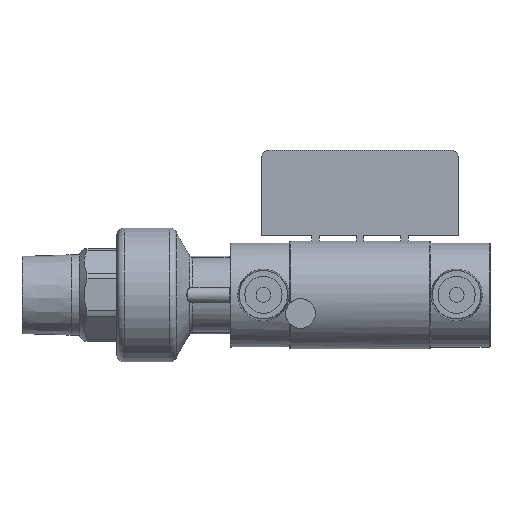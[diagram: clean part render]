
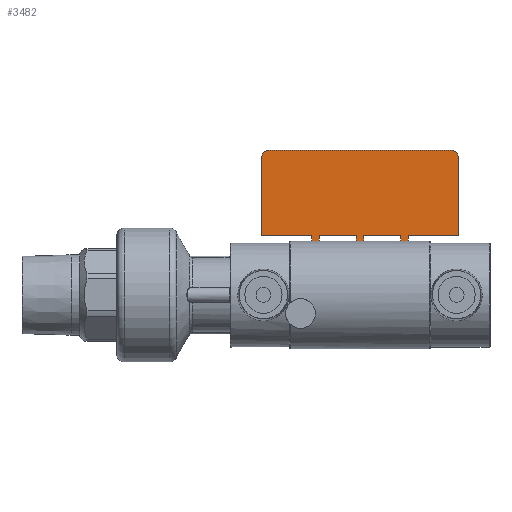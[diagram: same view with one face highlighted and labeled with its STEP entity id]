
A CAD part, top view. The second image highlights one B-rep face of the part: STEP entity #3482.
In plain terms, the highlighted planar face has unit normal (0, 0, 1).
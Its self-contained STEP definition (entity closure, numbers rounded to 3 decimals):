
#216=CIRCLE('',#4277,2.);
#218=CIRCLE('',#4292,2.);
#572=ORIENTED_EDGE('',*,*,#1452,.F.);
#573=ORIENTED_EDGE('',*,*,#1491,.F.);
#574=ORIENTED_EDGE('',*,*,#1488,.F.);
#575=ORIENTED_EDGE('',*,*,#1485,.F.);
#576=ORIENTED_EDGE('',*,*,#1482,.F.);
#577=ORIENTED_EDGE('',*,*,#1479,.F.);
#578=ORIENTED_EDGE('',*,*,#1410,.F.);
#579=ORIENTED_EDGE('',*,*,#1476,.F.);
#580=ORIENTED_EDGE('',*,*,#1474,.F.);
#581=ORIENTED_EDGE('',*,*,#1471,.F.);
#582=ORIENTED_EDGE('',*,*,#1400,.F.);
#583=ORIENTED_EDGE('',*,*,#1468,.F.);
#584=ORIENTED_EDGE('',*,*,#1466,.F.);
#585=ORIENTED_EDGE('',*,*,#1463,.F.);
#586=ORIENTED_EDGE('',*,*,#1414,.F.);
#587=ORIENTED_EDGE('',*,*,#1460,.F.);
#588=ORIENTED_EDGE('',*,*,#1458,.F.);
#589=ORIENTED_EDGE('',*,*,#1455,.F.);
#1400=EDGE_CURVE('',#1889,#1890,#2234,.T.);
#1410=EDGE_CURVE('',#1898,#1900,#2237,.T.);
#1414=EDGE_CURVE('',#1902,#1904,#2239,.T.);
#1452=EDGE_CURVE('',#1937,#1938,#216,.T.);
#1455=EDGE_CURVE('',#1938,#1940,#2248,.T.);
#1458=EDGE_CURVE('',#1940,#1942,#2251,.T.);
#1460=EDGE_CURVE('',#1942,#1902,#2253,.T.);
#1463=EDGE_CURVE('',#1904,#1944,#2256,.T.);
#1466=EDGE_CURVE('',#1944,#1946,#2259,.T.);
#1468=EDGE_CURVE('',#1946,#1889,#2261,.T.);
#1471=EDGE_CURVE('',#1890,#1948,#2264,.T.);
#1474=EDGE_CURVE('',#1948,#1950,#2267,.T.);
#1476=EDGE_CURVE('',#1950,#1898,#2269,.T.);
#1479=EDGE_CURVE('',#1900,#1952,#2272,.T.);
#1482=EDGE_CURVE('',#1952,#1954,#2275,.T.);
#1485=EDGE_CURVE('',#1954,#1956,#2278,.T.);
#1488=EDGE_CURVE('',#1956,#1958,#218,.T.);
#1491=EDGE_CURVE('',#1958,#1937,#2282,.T.);
#1889=VERTEX_POINT('',#5767);
#1890=VERTEX_POINT('',#5768);
#1898=VERTEX_POINT('',#5798);
#1900=VERTEX_POINT('',#5801);
#1902=VERTEX_POINT('',#5806);
#1904=VERTEX_POINT('',#5809);
#1937=VERTEX_POINT('',#5954);
#1938=VERTEX_POINT('',#5956);
#1940=VERTEX_POINT('',#5962);
#1942=VERTEX_POINT('',#5968);
#1944=VERTEX_POINT('',#5977);
#1946=VERTEX_POINT('',#5983);
#1948=VERTEX_POINT('',#5992);
#1950=VERTEX_POINT('',#5998);
#1952=VERTEX_POINT('',#6007);
#1954=VERTEX_POINT('',#6013);
#1956=VERTEX_POINT('',#6019);
#1958=VERTEX_POINT('',#6025);
#2234=LINE('',#5766,#2469);
#2237=LINE('',#5800,#2472);
#2239=LINE('',#5808,#2474);
#2248=LINE('',#5961,#2483);
#2251=LINE('',#5967,#2486);
#2253=LINE('',#5971,#2488);
#2256=LINE('',#5976,#2491);
#2259=LINE('',#5982,#2494);
#2261=LINE('',#5986,#2496);
#2264=LINE('',#5991,#2499);
#2267=LINE('',#5997,#2502);
#2269=LINE('',#6001,#2504);
#2272=LINE('',#6006,#2507);
#2275=LINE('',#6012,#2510);
#2278=LINE('',#6018,#2513);
#2282=LINE('',#6029,#2517);
#2469=VECTOR('',#4674,1000.);
#2472=VECTOR('',#4687,1000.);
#2474=VECTOR('',#4693,1000.);
#2483=VECTOR('',#4812,1000.);
#2486=VECTOR('',#4817,1000.);
#2488=VECTOR('',#4821,1000.);
#2491=VECTOR('',#4826,1000.);
#2494=VECTOR('',#4831,1000.);
#2496=VECTOR('',#4835,1000.);
#2499=VECTOR('',#4840,1000.);
#2502=VECTOR('',#4845,1000.);
#2504=VECTOR('',#4849,1000.);
#2507=VECTOR('',#4854,1000.);
#2510=VECTOR('',#4859,1000.);
#2513=VECTOR('',#4864,1000.);
#2517=VECTOR('',#4876,1000.);
#2769=EDGE_LOOP('',(#572,#573,#574,#575,#576,#577,#578,#579,#580,#581,#582,
#583,#584,#585,#586,#587,#588,#589));
#3073=FACE_BOUND('',#2769,.T.);
#3330=PLANE('',#4294);
#3482=ADVANCED_FACE('',(#3073),#3330,.F.);
#4277=AXIS2_PLACEMENT_3D('',#5955,#4806,#4807);
#4292=AXIS2_PLACEMENT_3D('',#6024,#4870,#4871);
#4294=AXIS2_PLACEMENT_3D('',#6030,#4877,#4878);
#4674=DIRECTION('',(-1.,0.,0.));
#4687=DIRECTION('',(-1.,0.,0.));
#4693=DIRECTION('',(-1.,0.,0.));
#4806=DIRECTION('',(0.,0.,-1.));
#4807=DIRECTION('',(-1.,0.,0.));
#4812=DIRECTION('',(0.,-1.,0.));
#4817=DIRECTION('',(-1.,0.,0.));
#4821=DIRECTION('',(0.,-1.,0.));
#4826=DIRECTION('',(0.,1.,0.));
#4831=DIRECTION('',(-1.,0.,0.));
#4835=DIRECTION('',(0.,-1.,0.));
#4840=DIRECTION('',(0.,1.,0.));
#4845=DIRECTION('',(-1.,0.,0.));
#4849=DIRECTION('',(0.,-1.,0.));
#4854=DIRECTION('',(0.,1.,0.));
#4859=DIRECTION('',(-1.,0.,0.));
#4864=DIRECTION('',(0.,1.,0.));
#4870=DIRECTION('',(0.,0.,-1.));
#4871=DIRECTION('',(1.,0.,0.));
#4876=DIRECTION('',(1.,0.,0.));
#4877=DIRECTION('',(0.,0.,-1.));
#4878=DIRECTION('',(-1.,0.,0.));
#5766=CARTESIAN_POINT('',(-60.,14.491,0.5));
#5767=CARTESIAN_POINT('',(1.,14.491,0.5));
#5768=CARTESIAN_POINT('',(-1.,14.491,0.5));
#5798=CARTESIAN_POINT('',(-11.,14.491,0.5));
#5800=CARTESIAN_POINT('',(-60.,14.491,0.5));
#5801=CARTESIAN_POINT('',(-13.,14.491,0.5));
#5806=CARTESIAN_POINT('',(13.,14.491,0.5));
#5808=CARTESIAN_POINT('',(-60.,14.491,0.5));
#5809=CARTESIAN_POINT('',(11.,14.491,0.5));
#5954=CARTESIAN_POINT('',(24.5,39.,0.5));
#5955=CARTESIAN_POINT('',(24.5,37.,0.5));
#5956=CARTESIAN_POINT('',(26.5,37.,0.5));
#5961=CARTESIAN_POINT('',(26.5,37.,0.5));
#5962=CARTESIAN_POINT('',(26.5,16.,0.5));
#5967=CARTESIAN_POINT('',(26.5,16.,0.5));
#5968=CARTESIAN_POINT('',(13.,16.,0.5));
#5971=CARTESIAN_POINT('',(13.,16.,0.5));
#5976=CARTESIAN_POINT('',(11.,16.,0.5));
#5977=CARTESIAN_POINT('',(11.,16.,0.5));
#5982=CARTESIAN_POINT('',(11.,16.,0.5));
#5983=CARTESIAN_POINT('',(1.,16.,0.5));
#5986=CARTESIAN_POINT('',(1.,16.,0.5));
#5991=CARTESIAN_POINT('',(-1.,16.,0.5));
#5992=CARTESIAN_POINT('',(-1.,16.,0.5));
#5997=CARTESIAN_POINT('',(-1.,16.,0.5));
#5998=CARTESIAN_POINT('',(-11.,16.,0.5));
#6001=CARTESIAN_POINT('',(-11.,16.,0.5));
#6006=CARTESIAN_POINT('',(-13.,16.,0.5));
#6007=CARTESIAN_POINT('',(-13.,16.,0.5));
#6012=CARTESIAN_POINT('',(-13.,16.,0.5));
#6013=CARTESIAN_POINT('',(-26.5,16.,0.5));
#6018=CARTESIAN_POINT('',(-26.5,16.,0.5));
#6019=CARTESIAN_POINT('',(-26.5,37.,0.5));
#6024=CARTESIAN_POINT('',(-24.5,37.,0.5));
#6025=CARTESIAN_POINT('',(-24.5,39.,0.5));
#6029=CARTESIAN_POINT('',(-24.5,39.,0.5));
#6030=CARTESIAN_POINT('',(24.5,37.,0.5));
